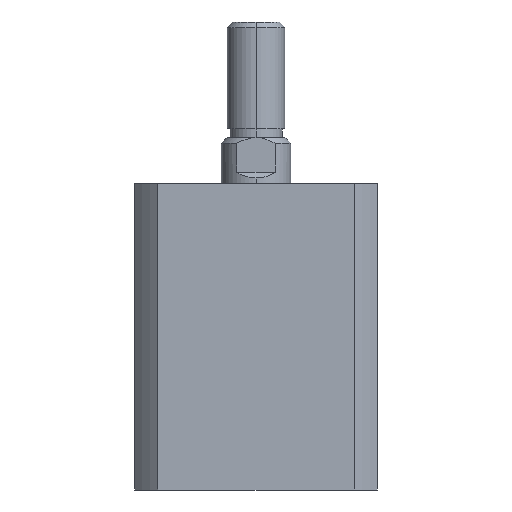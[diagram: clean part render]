
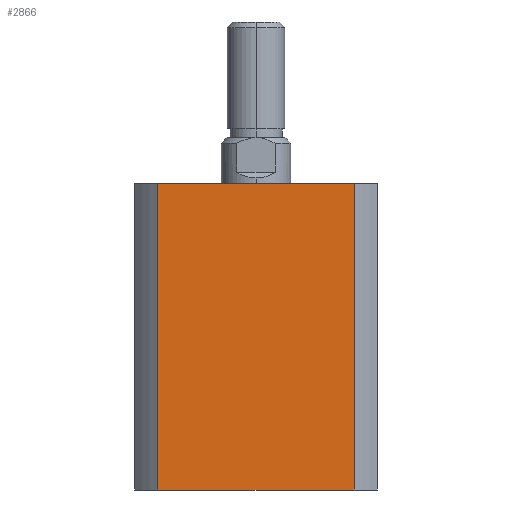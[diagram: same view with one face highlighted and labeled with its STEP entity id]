
A CAD part, left-side view. The second image highlights one B-rep face of the part: STEP entity #2866.
In plain terms, the highlighted planar face has unit normal (-1, 0, 0).
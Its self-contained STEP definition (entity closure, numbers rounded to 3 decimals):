
#71 = AXIS2_PLACEMENT_3D ( 'NONE', #567, #558, #557 ) ;
#557 = DIRECTION ( 'NONE',  ( 0., 1., 0. ) ) ;
#558 = DIRECTION ( 'NONE',  ( 1., 0., 0. ) ) ;
#561 = PLANE ( 'NONE',  #71 ) ;
#567 = CARTESIAN_POINT ( 'NONE',  ( -21., 21., 53. ) ) ;
#794 = CARTESIAN_POINT ( 'NONE',  ( -21., 21., 53. ) ) ;
#832 = DIRECTION ( 'NONE',  ( 0., -1., 0. ) ) ;
#964 = DIRECTION ( 'NONE',  ( 0., 0., -1. ) ) ;
#975 = CARTESIAN_POINT ( 'NONE',  ( -21., -16.971, 53. ) ) ;
#1049 = DIRECTION ( 'NONE',  ( 0., 0., 1. ) ) ;
#1050 = CARTESIAN_POINT ( 'NONE',  ( -21., 16.971, 53. ) ) ;
#1064 = DIRECTION ( 'NONE',  ( 0., -1., 0. ) ) ;
#1066 = CARTESIAN_POINT ( 'NONE',  ( -21., 21., 0. ) ) ;
#1666 = ORIENTED_EDGE ( 'NONE', *, *, #4043, .F. ) ;
#1667 = ORIENTED_EDGE ( 'NONE', *, *, #4058, .F. ) ;
#1668 = ORIENTED_EDGE ( 'NONE', *, *, #4092, .F. ) ;
#1669 = ORIENTED_EDGE ( 'NONE', *, *, #4084, .T. ) ;
#1980 = VERTEX_POINT ( 'NONE', #4015 ) ;
#1984 = VERTEX_POINT ( 'NONE', #4143 ) ;
#1985 = VERTEX_POINT ( 'NONE', #4175 ) ;
#2010 = VERTEX_POINT ( 'NONE', #3347 ) ;
#2488 = VECTOR ( 'NONE', #1049, 1000. ) ;
#2491 = LINE ( 'NONE', #1050, #2488 ) ;
#2501 = VECTOR ( 'NONE', #1064, 1000. ) ;
#2502 = LINE ( 'NONE', #1066, #2501 ) ;
#2528 = VECTOR ( 'NONE', #832, 1000. ) ;
#2530 = LINE ( 'NONE', #794, #2528 ) ;
#2547 = VECTOR ( 'NONE', #964, 1000. ) ;
#2556 = LINE ( 'NONE', #975, #2547 ) ;
#2866 = ADVANCED_FACE ( 'NONE', ( #4797 ), #561, .F. ) ;
#3347 = CARTESIAN_POINT ( 'NONE',  ( -21., -16.971, 53. ) ) ;
#4015 = CARTESIAN_POINT ( 'NONE',  ( -21., -16.971, 0. ) ) ;
#4043 = EDGE_CURVE ( 'NONE', #2010, #1980, #2556, .T. ) ;
#4058 = EDGE_CURVE ( 'NONE', #1984, #2010, #2530, .T. ) ;
#4084 = EDGE_CURVE ( 'NONE', #1985, #1980, #2502, .T. ) ;
#4092 = EDGE_CURVE ( 'NONE', #1985, #1984, #2491, .T. ) ;
#4143 = CARTESIAN_POINT ( 'NONE',  ( -21., 16.971, 53. ) ) ;
#4175 = CARTESIAN_POINT ( 'NONE',  ( -21., 16.971, 0. ) ) ;
#4797 = FACE_OUTER_BOUND ( 'NONE', #5021, .T. ) ;
#5021 = EDGE_LOOP ( 'NONE', ( #1666, #1667, #1668, #1669 ) ) ;
